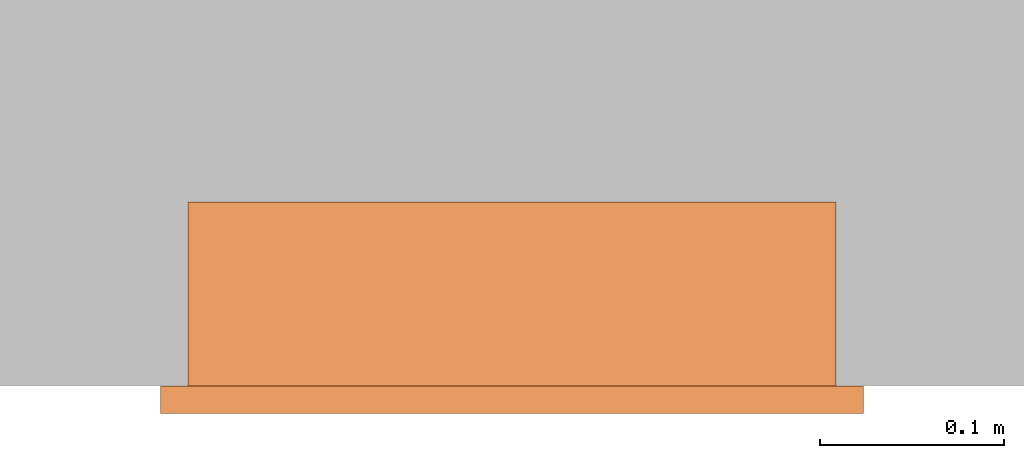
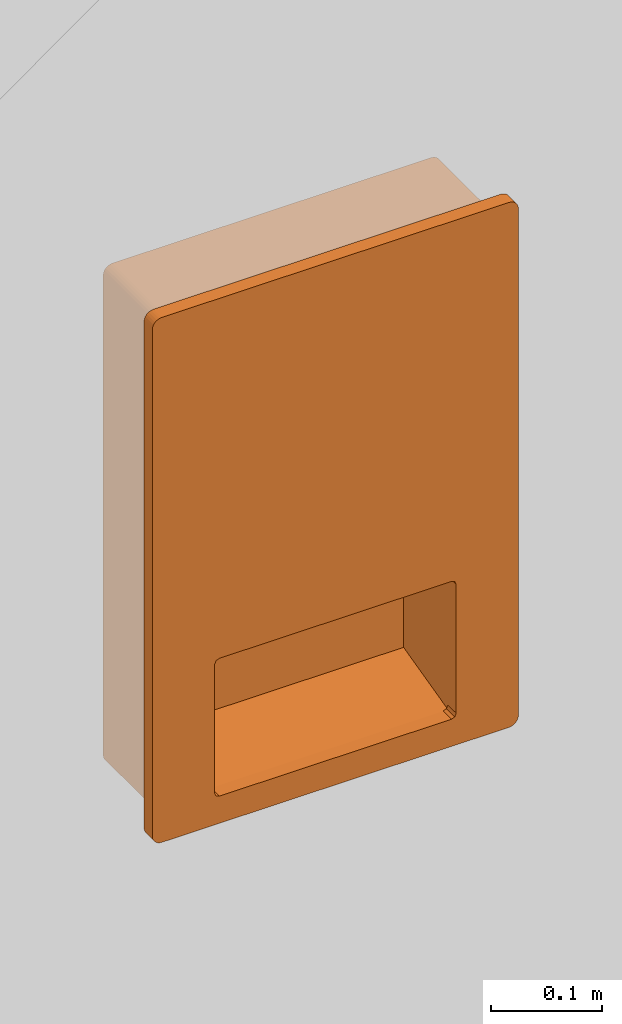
# One storey, part 2 of 2: 1 proxy.
"""IFC2X3 building model written with IfcOpenShell, lengths in millimetres."""

from ifc_helpers import new_model, entity, si_unit, converted_unit, derived_unit, direction, frame, origin, place, context, subcontext, project, spatial, faceted_brep, source, transform, mapped, material, element, save


model = new_model("IFC2X3")

# Units and contexts
model_context = context("Model", 3, precision=0.01, world=origin(), true_north=direction((6.12303176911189e-17, 1.0)))
context_of_model = context(None, 3, precision=0.01, world=origin(), true_north=direction((6.12303176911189e-17, 1.0)))
body_context = subcontext(model_context, "Body", "Model", "MODEL_VIEW")
ifc_project = project(units=[si_unit("LENGTHUNIT", "METRE", prefix="MILLI"), si_unit("AREAUNIT", "SQUARE_METRE"), si_unit("VOLUMEUNIT", "CUBIC_METRE"), converted_unit("PLANEANGLEUNIT", "DEGREE", entity("IfcRatioMeasure", 0.0174532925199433), si_unit("PLANEANGLEUNIT", "RADIAN"), dimensions=[0, 0, 0, 0, 0, 0, 0]), si_unit("MASSUNIT", "GRAM", prefix="KILO"), si_unit("TIMEUNIT", "SECOND"), si_unit("FREQUENCYUNIT", "HERTZ"), si_unit("THERMODYNAMICTEMPERATUREUNIT", "DEGREE_CELSIUS"), derived_unit("THERMALTRANSMITTANCEUNIT", [(si_unit("MASSUNIT", "GRAM", prefix="KILO"), 1), (si_unit("THERMODYNAMICTEMPERATUREUNIT", "KELVIN"), -1), (si_unit("TIMEUNIT", "SECOND"), -3)]), derived_unit("VOLUMETRICFLOWRATEUNIT", [(si_unit("LENGTHUNIT", "METRE"), 3), (si_unit("TIMEUNIT", "SECOND"), -1)]), si_unit("ELECTRICCURRENTUNIT", "AMPERE"), si_unit("ELECTRICVOLTAGEUNIT", "VOLT"), si_unit("POWERUNIT", "WATT"), si_unit("FORCEUNIT", "NEWTON", prefix="KILO"), si_unit("ILLUMINANCEUNIT", "LUX"), si_unit("LUMINOUSFLUXUNIT", "LUMEN"), si_unit("LUMINOUSINTENSITYUNIT", "CANDELA"), si_unit("PRESSUREUNIT", "PASCAL")], contexts=[model_context, context_of_model])

# Site, building, storey
site_placement = place(None, origin())
site = spatial("IfcSite", under=ifc_project, at=site_placement, Name="Default", CompositionType="ELEMENT")
building_placement = place(site_placement, origin())
building = spatial("IfcBuilding", under=site, at=building_placement, CompositionType="ELEMENT")
storey_placement = place(building_placement, origin())
storey = spatial("IfcBuildingStorey", under=building, at=storey_placement, Name="Level 0", CompositionType="ELEMENT", Elevation=0.0)

# Proxy
ifc_material = material(Name="Duten_Metal_BrushedStainlessSteel")
shared_shape = source(origin(), body_context, "Body", "Brep", [
    faceted_brep([(175.659258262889, 267.088190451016, 0.0), (174.660254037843, 269.499999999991, 0.0), (166.0, 274.499999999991, 0.0), (176.0, 264.499999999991, 0.0), (168.588190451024, 274.159258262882, 0.0), (173.071067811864, 271.571067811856, 0.0), (171.0, 273.160254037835, 0.0), (126.0, -107.500000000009, 0.0), (-166.0, 274.499999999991, 0.0), (-126.0, -107.500000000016, 0.0), (-176.0, 264.499999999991, 0.0), (-175.659258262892, 267.088190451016, 0.0), (-174.660254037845, 269.499999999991, 0.0), (-168.588190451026, 274.159258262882, 0.0), (-173.071067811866, 271.571067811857, 0.0), (-171.0, 273.160254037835, 0.0), (-176.0, -264.500000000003, 0.0), (-126.0, -259.500000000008, 0.0), (-166.0, -274.500000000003, 0.0), (-175.659258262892, -267.088190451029, 0.0), (-174.660254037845, -269.500000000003, 0.0), (-168.588190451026, -274.159258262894, 0.0), (-173.071067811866, -271.571067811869, 0.0), (-171.0, -273.160254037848, 0.0), (166.0, -274.500000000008, 0.0), (126.0, -259.500000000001, 0.0), (176.0, -264.500000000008, 0.0), (175.659258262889, -267.088190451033, 0.0), (174.660254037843, -269.500000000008, 0.0), (168.588190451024, -274.159258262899, 0.0), (173.071067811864, -271.571067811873, 0.0), (171.0, -273.160254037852, 0.0), (-176.0, 264.499999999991, -100.0), (-175.659258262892, 267.088190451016, -100.0), (-174.660254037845, 269.499999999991, -100.0), (-173.071067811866, 271.571067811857, -100.0), (-171.0, 273.160254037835, -100.0), (-168.588190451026, 274.159258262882, -100.0), (-166.0, 274.499999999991, -100.0), (166.0, 274.499999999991, -100.0), (168.588190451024, 274.159258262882, -100.0), (171.0, 273.160254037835, -100.0), (173.071067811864, 271.571067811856, -100.0), (174.660254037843, 269.499999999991, -100.0), (175.659258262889, 267.088190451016, -100.0), (176.0, 264.499999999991, -100.0), (176.0, -264.500000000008, -100.0), (175.659258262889, -267.088190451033, -100.0), (174.660254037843, -269.500000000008, -100.0), (173.071067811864, -271.571067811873, -100.0), (171.0, -273.160254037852, -100.0), (168.588190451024, -274.159258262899, -100.0), (166.0, -274.500000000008, -100.0), (-166.0, -274.500000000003, -100.0), (-168.588190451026, -274.159258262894, -100.0), (-171.0, -273.160254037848, -100.0), (-173.071067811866, -271.571067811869, -100.0), (-174.660254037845, -269.500000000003, -100.0), (-175.659258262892, -267.088190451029, -100.0), (-176.0, -264.500000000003, -100.0), (126.0, -120.209419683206, -50.837678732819), (126.0, -127.500000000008, -80.0), (126.0, -239.500000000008, -80.0), (126.0, -115.855541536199, -33.4221661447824), (126.0, -114.885399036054, -33.6647017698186), (126.0, -119.239277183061, -51.0802143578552), (-126.0, -115.855541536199, -33.4221661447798), (-126.0, -239.500000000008, -80.0), (-126.0, -127.500000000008, -80.0), (-126.0, -120.209419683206, -50.8376787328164), (-126.0, -119.239277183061, -51.0802143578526), (-126.0, -114.885399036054, -33.664701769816)], [[[0, 1, 2]], [[2, 3, 0]], [[2, 1, 4]], [[4, 1, 5]], [[5, 6, 4]], [[3, 2, 7]], [[2, 8, 7]], [[8, 9, 7]], [[8, 10, 9]], [[10, 8, 11]], [[12, 11, 8]], [[12, 8, 13]], [[13, 14, 12]], [[15, 14, 13]], [[9, 10, 16]], [[17, 9, 16]], [[16, 18, 17]], [[19, 18, 16]], [[20, 18, 19]], [[21, 18, 20]], [[22, 21, 20]], [[23, 21, 22]], [[17, 18, 24]], [[25, 17, 24]], [[24, 26, 25]], [[27, 26, 24]], [[24, 28, 27]], [[24, 29, 28]], [[29, 30, 28]], [[29, 31, 30]], [[3, 7, 26]], [[26, 7, 25]], [[32, 33, 34, 35, 36, 37, 38, 39, 40, 41, 42, 43, 44, 45, 46, 47, 48, 49, 50, 51, 52, 53, 54, 55, 56, 57, 58, 59]], [[8, 2, 39, 38]], [[16, 10, 32, 59]], [[24, 18, 53, 52]], [[3, 26, 46, 45]], [[36, 35, 14, 15]], [[13, 8, 38, 37]], [[37, 36, 15, 13]], [[12, 34, 33, 11]], [[11, 33, 32, 10]], [[12, 14, 35, 34]], [[19, 58, 57, 20]], [[20, 57, 56, 22]], [[16, 59, 58, 19]], [[23, 55, 54, 21]], [[21, 54, 53, 18]], [[22, 56, 55, 23]], [[29, 51, 50, 31]], [[31, 50, 49, 30]], [[52, 51, 29, 24]], [[28, 48, 47, 27]], [[27, 47, 46, 26]], [[30, 49, 48, 28]], [[45, 44, 0, 3]], [[5, 1, 43, 42]], [[43, 1, 0, 44]], [[6, 41, 40, 4]], [[4, 40, 39, 2]], [[5, 42, 41, 6]], [[60, 61, 62, 25, 7, 63, 64, 65]], [[66, 9, 17, 67, 68, 69, 70, 71]], [[67, 62, 61, 68]], [[68, 61, 60, 69]], [[66, 63, 7, 9]], [[17, 25, 62, 67]], [[70, 69, 60, 65]], [[71, 70, 65, 64]], [[66, 71, 64, 63]]]),
    faceted_brep([(189.660254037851, 284.499999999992, 15.0), (188.071067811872, 286.571067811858, 15.0), (183.588190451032, 289.159258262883, 15.0), (181.0, 289.499999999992, 15.0), (190.659258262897, 282.088190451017, 15.0), (186.0, 288.160254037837, 15.0), (191.0, 279.499999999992, 15.0), (121.0, -107.500000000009, 15.0), (-181.0, 289.499999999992, 15.0), (-121.0, -107.500000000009, 15.0), (-191.0, 279.499999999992, 15.0), (-190.659258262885, 282.088190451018, 15.0), (-189.660254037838, 284.499999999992, 15.0), (-183.588190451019, 289.159258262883, 15.0), (-188.071067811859, 286.571067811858, 15.0), (-186.0, 288.160254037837, 15.0), (-124.535533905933, -108.964466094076, 15.0), (-126.0, -112.500000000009, 15.0), (-191.0, -279.500000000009, 15.0), (-126.0, -254.500000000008, 15.0), (-181.0, -289.500000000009, 15.0), (-190.659258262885, -282.088190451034, 15.0), (-189.660254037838, -284.500000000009, 15.0), (-183.588190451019, -289.1592582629, 15.0), (-188.071067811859, -286.571067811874, 15.0), (-186.0, -288.160254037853, 15.0), (-124.535533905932, -258.035533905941, 15.0), (-121.0, -259.500000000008, 15.0), (181.0, -289.500000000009, 15.0), (121.0, -259.500000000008, 15.0), (124.535533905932, -258.035533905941, 15.0), (126.0, -254.500000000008, 15.0), (191.0, -279.500000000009, 15.0), (190.659258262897, -282.088190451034, 15.0), (189.660254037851, -284.500000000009, 15.0), (183.588190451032, -289.1592582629, 15.0), (188.071067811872, -286.571067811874, 15.0), (186.0, -288.160254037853, 15.0), (126.0, -112.500000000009, 15.0), (124.535533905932, -108.964466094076, 15.0), (-189.660254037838, 284.499999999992, 0.0), (-188.071067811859, 286.571067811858, 0.0), (-183.588190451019, 289.159258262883, 0.0), (-181.0, 289.499999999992, 0.0), (-190.659258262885, 282.088190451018, 0.0), (-186.0, 288.160254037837, 0.0), (-191.0, 279.499999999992, 0.0), (-121.0, -107.500000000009, 0.0), (181.0, 289.499999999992, 0.0), (121.0, -107.500000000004, 0.0), (191.0, 279.499999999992, 0.0), (190.659258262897, 282.088190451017, 0.0), (189.660254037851, 284.499999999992, 0.0), (183.588190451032, 289.159258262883, 0.0), (188.071067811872, 286.571067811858, 0.0), (186.0, 288.160254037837, 0.0), (124.535533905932, -108.964466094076, 0.0), (126.0, -112.500000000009, 0.0), (191.0, -279.500000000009, 0.0), (126.0, -254.500000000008, 0.0), (181.0, -289.500000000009, 0.0), (190.659258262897, -282.088190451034, 0.0), (189.660254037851, -284.500000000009, 0.0), (183.588190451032, -289.1592582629, 0.0), (188.071067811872, -286.571067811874, 0.0), (186.0, -288.160254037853, 0.0), (124.535533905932, -258.035533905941, 0.0), (121.0, -259.500000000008, 0.0), (-181.0, -289.500000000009, 0.0), (-121.0, -259.500000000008, 0.0), (-124.535533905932, -258.035533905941, 0.0), (-126.0, -254.500000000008, 0.0), (-191.0, -279.500000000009, 0.0), (-190.659258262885, -282.088190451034, 0.0), (-189.660254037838, -284.500000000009, 0.0), (-183.588190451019, -289.1592582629, 0.0), (-188.071067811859, -286.571067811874, 0.0), (-186.0, -288.160254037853, 0.0), (-126.0, -112.500000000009, 0.0), (-124.535533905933, -108.964466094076, 0.0)], [[[0, 1, 2]], [[2, 3, 0]], [[3, 4, 0]], [[5, 2, 1]], [[6, 4, 3]], [[3, 7, 6]], [[3, 8, 7]], [[8, 9, 7]], [[9, 8, 10]], [[10, 8, 11]], [[8, 12, 11]], [[13, 12, 8]], [[14, 12, 13]], [[15, 14, 13]], [[10, 16, 9]], [[10, 17, 16]], [[17, 10, 18]], [[19, 17, 18]], [[20, 19, 18]], [[21, 20, 18]], [[22, 20, 21]], [[23, 20, 22]], [[23, 22, 24]], [[23, 24, 25]], [[26, 19, 20]], [[26, 20, 27]], [[27, 20, 28]], [[28, 29, 27]], [[28, 30, 29]], [[31, 30, 28]], [[28, 32, 31]], [[33, 32, 28]], [[28, 34, 33]], [[28, 35, 34]], [[34, 35, 36]], [[36, 35, 37]], [[6, 38, 32]], [[32, 38, 31]], [[39, 6, 7]], [[38, 6, 39]], [[40, 41, 42]], [[42, 43, 40]], [[43, 44, 40]], [[45, 42, 41]], [[46, 44, 43]], [[43, 47, 46]], [[43, 48, 47]], [[48, 49, 47]], [[49, 48, 50]], [[50, 48, 51]], [[48, 52, 51]], [[53, 52, 48]], [[54, 52, 53]], [[55, 54, 53]], [[50, 56, 49]], [[50, 57, 56]], [[57, 50, 58]], [[59, 57, 58]], [[60, 59, 58]], [[61, 60, 58]], [[62, 60, 61]], [[63, 60, 62]], [[63, 62, 64]], [[63, 64, 65]], [[66, 59, 60]], [[66, 60, 67]], [[67, 60, 68]], [[68, 69, 67]], [[68, 70, 69]], [[71, 70, 68]], [[68, 72, 71]], [[73, 72, 68]], [[68, 74, 73]], [[68, 75, 74]], [[74, 75, 76]], [[76, 75, 77]], [[46, 78, 72]], [[72, 78, 71]], [[79, 46, 47]], [[78, 46, 79]], [[8, 3, 48, 43]], [[18, 10, 46, 72]], [[28, 20, 68, 60]], [[6, 32, 58, 50]], [[49, 7, 9, 47]], [[78, 17, 19, 71]], [[69, 27, 29, 67]], [[59, 31, 38, 57]], [[13, 8, 43, 42]], [[15, 13, 42, 45]], [[14, 15, 45, 41]], [[12, 14, 41, 40]], [[11, 12, 40, 44]], [[10, 11, 44, 46]], [[21, 18, 72, 73]], [[22, 21, 73, 74]], [[24, 22, 74, 76]], [[25, 24, 76, 77]], [[23, 25, 77, 75]], [[20, 23, 75, 68]], [[35, 28, 60, 63]], [[37, 35, 63, 65]], [[36, 37, 65, 64]], [[34, 36, 64, 62]], [[33, 34, 62, 61]], [[32, 33, 61, 58]], [[4, 6, 50, 51]], [[0, 4, 51, 52]], [[1, 0, 52, 54]], [[5, 1, 54, 55]], [[2, 5, 55, 53]], [[3, 2, 53, 48]], [[16, 79, 47, 9]], [[17, 78, 79, 16]], [[26, 70, 71, 19]], [[27, 69, 70, 26]], [[30, 66, 67, 29]], [[31, 59, 66, 30]], [[39, 56, 57, 38]], [[7, 49, 56, 39]]]),
])
proxy_placement = place(storey_placement, frame((-4174.05975115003, -159.822778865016, 1655.38102380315), z_axis=(0.0, -1.0, 0.0), x_axis=(1.0, 0.0, 0.0)))
element("IfcBuildingElementProxy", 1, at=proxy_placement, inside=storey, material=ifc_material, Name="Duten_PprTwlDpnsrs_E040:Folded Towel Dispenser", ObjectType="Folded Towel Dispenser", CompositionType="ELEMENT", context=body_context, shape_type="MappedRepresentation", body=[
    mapped(shared_shape, transform((0.0, 0.0, 0.0), scale=1.0)),
])

save(model, "model.ifc")
